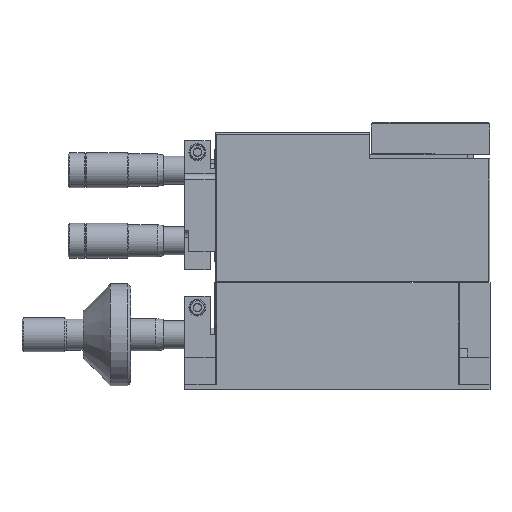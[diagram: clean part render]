
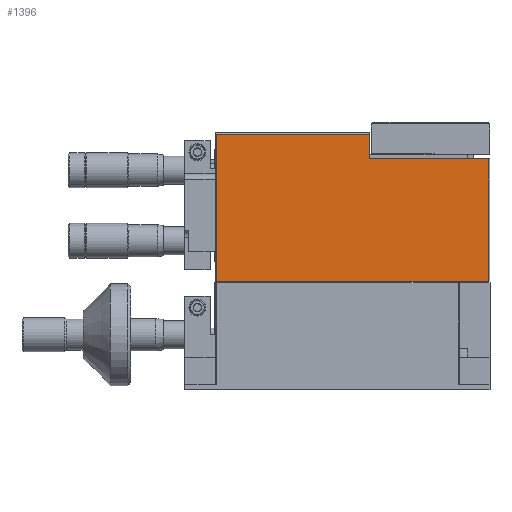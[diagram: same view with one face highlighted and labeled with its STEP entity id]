
A CAD part, top view. The second image highlights one B-rep face of the part: STEP entity #1396.
In plain terms, the highlighted planar face has unit normal (0, 0, 1).
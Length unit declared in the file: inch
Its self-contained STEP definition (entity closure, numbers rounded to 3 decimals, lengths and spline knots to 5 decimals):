
#1396=ADVANCED_FACE('P3A-LM-MM-HN-SI[2]',(#4561),#4562,.T.);
#1868=EDGE_CURVE('P3A-LM-MM-HN-SI[2]',#5345,#5346,#5347,.F.);
#3160=EDGE_CURVE('P3A-LM-MM-HN-SI[2]',#6239,#7185,#7186,.T.);
#3818=EDGE_CURVE('P3A-LM-MM-HN-SI[2]',#8032,#6488,#8033,.T.);
#4273=EDGE_CURVE('P3A-LM-MM-HN-SI[2]',#8032,#5346,#8605,.F.);
#4478=EDGE_CURVE('P3A-LM-MM-HN-SI[2]',#5345,#7185,#8867,.F.);
#4480=EDGE_CURVE('P3A-LM-MM-HN-SI[2]',#6488,#6239,#8869,.T.);
#4561=FACE_OUTER_BOUND('',#8959,.T.);
#4562=PLANE('',#8960);
#5345=VERTEX_POINT('',#10075);
#5346=VERTEX_POINT('',#10076);
#5347=LINE('',#10077,#10078);
#6239=VERTEX_POINT('',#11378);
#6488=VERTEX_POINT('',#11758);
#7185=VERTEX_POINT('',#12825);
#7186=LINE('',#12826,#12827);
#8032=VERTEX_POINT('',#14112);
#8033=LINE('',#14113,#14114);
#8605=LINE('',#15002,#15003);
#8867=LINE('',#15387,#15388);
#8869=LINE('',#15391,#15392);
#8959=EDGE_LOOP('',(#15493,#15494,#15495,#15496,#15497,#15498));
#8960=AXIS2_PLACEMENT_3D('',#15499,#15500,#15501);
#10075=CARTESIAN_POINT('',(-5.03,-4.1,0.875));
#10076=CARTESIAN_POINT('',(-1.02,-4.1,0.875));
#10077=CARTESIAN_POINT('',(-3.9,-4.1,0.875));
#10078=VECTOR('',#16310,1.0);
#11378=CARTESIAN_POINT('',(-2.77,-1.93,0.875));
#11758=CARTESIAN_POINT('',(-2.77,-2.29,0.875));
#12825=CARTESIAN_POINT('',(-5.03,-1.93,0.875));
#12826=CARTESIAN_POINT('',(-3.4625,-1.93,0.875));
#12827=VECTOR('',#18289,1.0);
#14112=CARTESIAN_POINT('',(-1.02,-2.29,0.875));
#14113=CARTESIAN_POINT('',(-2.8925,-2.29,0.875));
#14114=VECTOR('',#19330,1.0);
#15002=CARTESIAN_POINT('',(-1.02,-3.06,0.875));
#15003=VECTOR('',#20104,1.0);
#15387=CARTESIAN_POINT('',(-5.03,-3.01125,0.875));
#15388=VECTOR('',#20447,1.0);
#15391=CARTESIAN_POINT('',(-2.77,-3.015,0.875));
#15392=VECTOR('',#20448,1.0);
#15493=ORIENTED_EDGE('',*,*,#3160,.T.);
#15494=ORIENTED_EDGE('',*,*,#4478,.F.);
#15495=ORIENTED_EDGE('',*,*,#1868,.T.);
#15496=ORIENTED_EDGE('',*,*,#4273,.F.);
#15497=ORIENTED_EDGE('',*,*,#3818,.T.);
#15498=ORIENTED_EDGE('',*,*,#4480,.T.);
#15499=CARTESIAN_POINT('',(-3.9,-3.015,0.875));
#15500=DIRECTION('',(0.,0.,1.0));
#15501=DIRECTION('',(1.0,0.,0.0));
#16310=DIRECTION('',(-1.0,0.0,0.));
#18289=DIRECTION('',(-1.0,0.,0.));
#19330=DIRECTION('',(-1.0,0.0,0.));
#20104=DIRECTION('',(0.0,1.0,0.0));
#20447=DIRECTION('',(0.0,-1.0,0.0));
#20448=DIRECTION('',(0.0,1.0,0.0));
